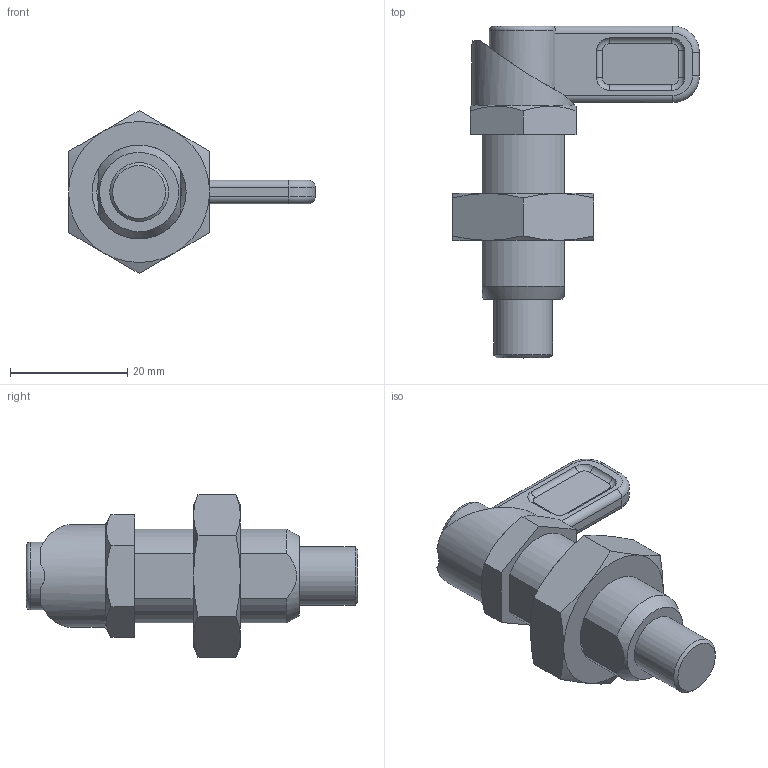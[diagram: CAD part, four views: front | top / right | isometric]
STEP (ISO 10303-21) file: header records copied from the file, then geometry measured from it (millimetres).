
FILE_DESCRIPTION( ( 'STEP AP203' ), '1' );
FILE_NAME( 'C:/Temp/Ganter_Step_05_03_2020/data/3_1/gn_612.8/gn612_8_ak/Indexing plunger GN 612.8-10-M16x1,5-AK (deactivated).stp', '2020-03-12T09:12:41', ( 'License CC BY-ND 4.0' ), ( 'CADENAS' ), ' ', 'PARTsolutions', ' ' );
FILE_SCHEMA( ( 'CONFIG_CONTROL_DESIGN' ) );
Length unit declared in the file: millimetre
Products named in the file (4): Indexing plunger GN 612.8-10-M16x1,5-AK (deactivated); _Indexing plunger GN 612.8-10-M16x1,5-AK (1)_2; _Indexing plunger GN 612.8-10-M16x1,5-AK (1)_1; _Indexing plunger GN 612.8-10-M16x1,5-AK (1)_3
Assembly tree (3 placements, depth 2):
  Indexing plunger GN 612.8-10-M16x1,5-AK (deactivated)
    _Indexing plunger GN 612.8-10-M16x1,5-AK (1)_2
    _Indexing plunger GN 612.8-10-M16x1,5-AK (1)_1
    _Indexing plunger GN 612.8-10-M16x1,5-AK (1)_3
Bounding box: 42 x 56.5 x 27.71 mm (x, y, z)
Volume: 13041.2 mm3; surface area: 8183.8 mm2
Topology: 3 solids, 3 shells, 97 faces, 221 edges, 139 vertices
Faces by surface type: plane 35, cylinder 32, cone 17, torus 13
Full cylindrical faces by diameter (mm): 10 x4, 11 x2, 11.5 x1, 12.5 x1, 14.376 x1, 17.5 x1
Entity records: 3183 total; most frequent: CARTESIAN_POINT 948, DIRECTION 448, ORIENTED_EDGE 408, EDGE_CURVE 204, AXIS2_PLACEMENT_3D 192, VERTEX_POINT 136, EDGE_LOOP 124, FACE_OUTER_BOUND 106
